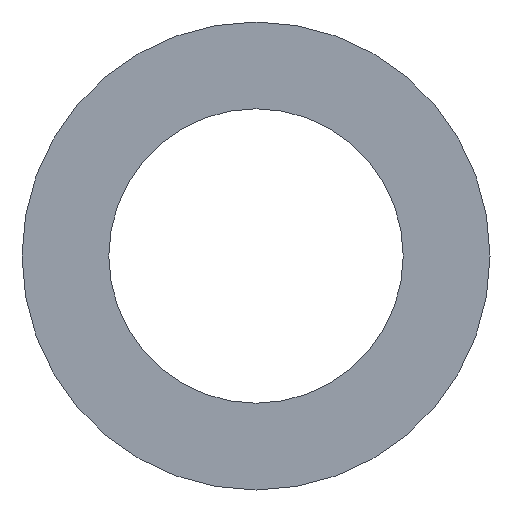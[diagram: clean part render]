
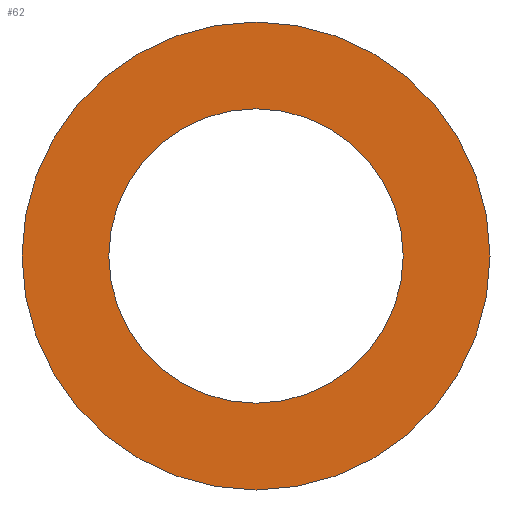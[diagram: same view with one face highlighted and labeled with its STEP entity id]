
A CAD part, front view. The second image highlights one B-rep face of the part: STEP entity #62.
In plain terms, the highlighted planar face has unit normal (0, -1, 0).
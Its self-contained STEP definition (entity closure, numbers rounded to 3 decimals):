
#20=PLANE('',#83);
#26=ORIENTED_EDGE('',*,*,#30,.T.);
#27=ORIENTED_EDGE('',*,*,#32,.F.);
#30=EDGE_CURVE('',#34,#34,#38,.T.);
#32=EDGE_CURVE('',#36,#36,#40,.T.);
#34=VERTEX_POINT('',#106);
#36=VERTEX_POINT('',#111);
#38=CIRCLE('',#78,103.5);
#40=CIRCLE('',#81,164.5);
#46=EDGE_LOOP('',(#26));
#47=EDGE_LOOP('',(#27));
#54=FACE_BOUND('',#46,.T.);
#55=FACE_BOUND('',#47,.T.);
#62=ADVANCED_FACE('',(#54,#55),#20,.F.);
#78=AXIS2_PLACEMENT_3D('',#105,#89,#90);
#81=AXIS2_PLACEMENT_3D('',#110,#95,#96);
#83=AXIS2_PLACEMENT_3D('',#114,#99,#100);
#89=DIRECTION('',(0.,1.,0.));
#90=DIRECTION('',(1.,0.,0.));
#95=DIRECTION('',(0.,1.,0.));
#96=DIRECTION('',(1.,0.,0.));
#99=DIRECTION('',(0.,1.,0.));
#100=DIRECTION('',(0.,0.,1.));
#105=CARTESIAN_POINT('',(0.,-1.5,0.));
#106=CARTESIAN_POINT('',(103.5,-1.5,0.));
#110=CARTESIAN_POINT('',(0.,-1.5,0.));
#111=CARTESIAN_POINT('',(164.5,-1.5,0.));
#114=CARTESIAN_POINT('',(0.,-1.5,0.));
